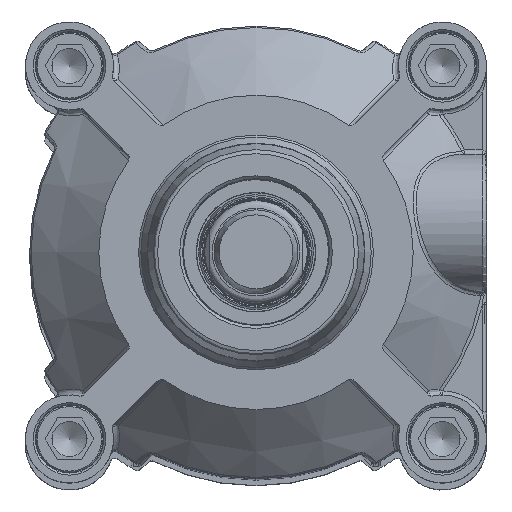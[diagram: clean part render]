
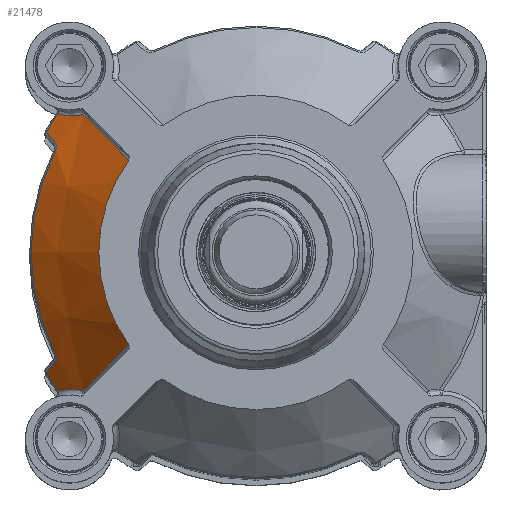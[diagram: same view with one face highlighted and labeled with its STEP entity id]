
A CAD part, top view. The second image highlights one B-rep face of the part: STEP entity #21478.
In plain terms, the highlighted conical face has half-angle 47.936 degrees and reference radius 47.75 mm.
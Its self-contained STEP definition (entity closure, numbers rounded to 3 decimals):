
#603=B_SPLINE_CURVE_WITH_KNOTS('',3,(#40989,#40990,#40991,#40992),
 .UNSPECIFIED.,.F.,.F.,(4,4),(-2.488,-0.418),
 .UNSPECIFIED.);
#607=B_SPLINE_CURVE_WITH_KNOTS('',3,(#41065,#41066,#41067,#41068,#41069),
 .UNSPECIFIED.,.F.,.F.,(4,1,4),(-8.955,-8.635,-8.209),
 .UNSPECIFIED.);
#609=B_SPLINE_CURVE_WITH_KNOTS('',3,(#41117,#41118,#41119,#41120,#41121,
#41122),.UNSPECIFIED.,.F.,.F.,(4,1,1,4),(-0.268,-0.153,
-0.077,0.),.UNSPECIFIED.);
#612=B_SPLINE_CURVE_WITH_KNOTS('',3,(#41172,#41173,#41174,#41175,#41176),
 .UNSPECIFIED.,.F.,.F.,(4,1,4),(-0.268,-0.153,0.),
 .UNSPECIFIED.);
#613=B_SPLINE_CURVE_WITH_KNOTS('',3,(#41208,#41209,#41210,#41211),
 .UNSPECIFIED.,.F.,.F.,(4,4),(-1.565,-1.186),
 .UNSPECIFIED.);
#617=B_SPLINE_CURVE_WITH_KNOTS('',3,(#41288,#41289,#41290,#41291,#41292,
#41293,#41294,#41295),.UNSPECIFIED.,.F.,.F.,(4,2,2,4),(-8.752,
-8.48,-8.178,-8.005),.UNSPECIFIED.);
#620=B_SPLINE_CURVE_WITH_KNOTS('',3,(#41324,#41325,#41326,#41327),
 .UNSPECIFIED.,.F.,.F.,(4,4),(-2.108,-0.039),
 .UNSPECIFIED.);
#621=B_SPLINE_CURVE_WITH_KNOTS('',3,(#41351,#41352,#41353,#41354),
 .UNSPECIFIED.,.F.,.F.,(4,4),(-3.15,-2.771),
 .UNSPECIFIED.);
#5345=FACE_OUTER_BOUND('',#6947,.T.);
#6947=EDGE_LOOP('',(#17258,#17259,#17260,#17261,#17262,#17263,#17264,#17265,
#17266,#17267,#17268,#17269));
#8154=CIRCLE('',#23464,37.5);
#8212=CIRCLE('',#23548,57.67);
#8218=CIRCLE('',#23555,53.67);
#8225=CIRCLE('',#23564,57.67);
#9803=VERTEX_POINT('',#40369);
#9804=VERTEX_POINT('',#40382);
#9871=VERTEX_POINT('',#40961);
#9875=VERTEX_POINT('',#41027);
#9879=VERTEX_POINT('',#41079);
#9880=VERTEX_POINT('',#41115);
#9881=VERTEX_POINT('',#41116);
#9886=VERTEX_POINT('',#41169);
#9887=VERTEX_POINT('',#41171);
#9890=VERTEX_POINT('',#41185);
#9893=VERTEX_POINT('',#41243);
#9897=VERTEX_POINT('',#41261);
#12329=EDGE_CURVE('',#9803,#9804,#8154,.T.);
#12430=EDGE_CURVE('',#9804,#9871,#603,.T.);
#12436=EDGE_CURVE('',#9871,#9875,#607,.T.);
#12441=EDGE_CURVE('',#9875,#9879,#8212,.T.);
#12443=EDGE_CURVE('',#9880,#9881,#609,.T.);
#12449=EDGE_CURVE('',#9886,#9887,#612,.T.);
#12451=EDGE_CURVE('',#9881,#9886,#8218,.T.);
#12456=EDGE_CURVE('',#9887,#9890,#613,.T.);
#12462=EDGE_CURVE('',#9890,#9893,#8225,.T.);
#12467=EDGE_CURVE('',#9893,#9897,#617,.T.);
#12470=EDGE_CURVE('',#9897,#9803,#620,.T.);
#12473=EDGE_CURVE('',#9879,#9880,#621,.T.);
#17258=ORIENTED_EDGE('',*,*,#12470,.F.);
#17259=ORIENTED_EDGE('',*,*,#12467,.F.);
#17260=ORIENTED_EDGE('',*,*,#12462,.F.);
#17261=ORIENTED_EDGE('',*,*,#12456,.F.);
#17262=ORIENTED_EDGE('',*,*,#12449,.F.);
#17263=ORIENTED_EDGE('',*,*,#12451,.F.);
#17264=ORIENTED_EDGE('',*,*,#12443,.F.);
#17265=ORIENTED_EDGE('',*,*,#12473,.F.);
#17266=ORIENTED_EDGE('',*,*,#12441,.F.);
#17267=ORIENTED_EDGE('',*,*,#12436,.F.);
#17268=ORIENTED_EDGE('',*,*,#12430,.F.);
#17269=ORIENTED_EDGE('',*,*,#12329,.F.);
#19100=CONICAL_SURFACE('',#23572,47.75,47.936);
#21478=ADVANCED_FACE('',(#5345),#19100,.T.);
#23464=AXIS2_PLACEMENT_3D('',#40383,#27825,#27826);
#23548=AXIS2_PLACEMENT_3D('',#41083,#28014,#28015);
#23555=AXIS2_PLACEMENT_3D('',#41179,#28028,#28029);
#23564=AXIS2_PLACEMENT_3D('',#41255,#28046,#28047);
#23572=AXIS2_PLACEMENT_3D('',#41360,#28064,#28065);
#27825=DIRECTION('center_axis',(0.,0.,1.));
#27826=DIRECTION('ref_axis',(1.,0.,0.));
#28014=DIRECTION('center_axis',(0.,0.,-1.));
#28015=DIRECTION('ref_axis',(-0.842,-0.54,0.));
#28028=DIRECTION('center_axis',(0.,0.,-1.));
#28029=DIRECTION('ref_axis',(-1.,0.,0.));
#28046=DIRECTION('center_axis',(0.,0.,-1.));
#28047=DIRECTION('ref_axis',(-0.842,0.54,0.));
#28064=DIRECTION('center_axis',(0.,0.,-1.));
#28065=DIRECTION('ref_axis',(0.707,-0.707,0.));
#40369=CARTESIAN_POINT('',(-30.355,22.019,48.5));
#40382=CARTESIAN_POINT('',(-30.355,-22.019,48.5));
#40383=CARTESIAN_POINT('Origin',(0.,0.,48.5));
#40961=CARTESIAN_POINT('',(-41.282,-32.903,34.702));
#40989=CARTESIAN_POINT('Ctrl Pts',(-30.355,-22.019,
48.5));
#40990=CARTESIAN_POINT('Ctrl Pts',(-34.005,-25.649,43.91));
#40991=CARTESIAN_POINT('Ctrl Pts',(-37.645,-29.276,
39.308));
#40992=CARTESIAN_POINT('Ctrl Pts',(-41.282,-32.903,
34.702));
#41027=CARTESIAN_POINT('',(-47.23,-33.093,30.298));
#41065=CARTESIAN_POINT('Ctrl Pts',(-41.282,-32.903,
34.702));
#41066=CARTESIAN_POINT('Ctrl Pts',(-42.183,-32.691,
34.185));
#41067=CARTESIAN_POINT('Ctrl Pts',(-44.275,-32.474,
32.8));
#41068=CARTESIAN_POINT('Ctrl Pts',(-46.193,-32.781,31.226));
#41069=CARTESIAN_POINT('Ctrl Pts',(-47.23,-33.093,30.298));
#41079=CARTESIAN_POINT('',(-50.032,-28.682,30.298));
#41083=CARTESIAN_POINT('Origin',(0.,0.,30.298));
#41115=CARTESIAN_POINT('',(-48.141,-26.49,32.754));
#41116=CARTESIAN_POINT('',(-47.877,-24.254,33.908));
#41117=CARTESIAN_POINT('Ctrl Pts',(-48.141,-26.49,32.754));
#41118=CARTESIAN_POINT('Ctrl Pts',(-47.95,-26.269,
33.002));
#41119=CARTESIAN_POINT('Ctrl Pts',(-47.699,-25.813,
33.398));
#41120=CARTESIAN_POINT('Ctrl Pts',(-47.619,-24.994,
33.81));
#41121=CARTESIAN_POINT('Ctrl Pts',(-47.76,-24.485,
33.908));
#41122=CARTESIAN_POINT('Ctrl Pts',(-47.877,-24.254,
33.908));
#41169=CARTESIAN_POINT('',(-47.877,24.254,33.908));
#41171=CARTESIAN_POINT('',(-48.141,26.49,32.754));
#41172=CARTESIAN_POINT('Ctrl Pts',(-47.877,24.254,33.908));
#41173=CARTESIAN_POINT('Ctrl Pts',(-47.702,24.6,33.908));
#41174=CARTESIAN_POINT('Ctrl Pts',(-47.555,25.508,33.645));
#41175=CARTESIAN_POINT('Ctrl Pts',(-47.886,26.195,33.084));
#41176=CARTESIAN_POINT('Ctrl Pts',(-48.141,26.49,32.754));
#41179=CARTESIAN_POINT('Origin',(0.,0.,33.908));
#41185=CARTESIAN_POINT('',(-50.032,28.682,30.298));
#41208=CARTESIAN_POINT('Ctrl Pts',(-48.141,26.49,32.754));
#41209=CARTESIAN_POINT('Ctrl Pts',(-48.772,27.222,31.937));
#41210=CARTESIAN_POINT('Ctrl Pts',(-49.402,27.953,31.118));
#41211=CARTESIAN_POINT('Ctrl Pts',(-50.032,28.682,30.298));
#41243=CARTESIAN_POINT('',(-47.23,33.093,30.298));
#41255=CARTESIAN_POINT('Origin',(0.,0.,30.298));
#41261=CARTESIAN_POINT('',(-41.282,32.903,34.702));
#41288=CARTESIAN_POINT('Ctrl Pts',(-47.23,33.093,30.298));
#41289=CARTESIAN_POINT('Ctrl Pts',(-46.566,32.893,30.892));
#41290=CARTESIAN_POINT('Ctrl Pts',(-45.877,32.75,31.475));
#41291=CARTESIAN_POINT('Ctrl Pts',(-44.383,32.585,32.657));
#41292=CARTESIAN_POINT('Ctrl Pts',(-43.565,32.575,33.256));
#41293=CARTESIAN_POINT('Ctrl Pts',(-42.255,32.709,34.121));
#41294=CARTESIAN_POINT('Ctrl Pts',(-41.769,32.788,34.422));
#41295=CARTESIAN_POINT('Ctrl Pts',(-41.282,32.903,34.702));
#41324=CARTESIAN_POINT('Ctrl Pts',(-41.282,32.903,34.702));
#41325=CARTESIAN_POINT('Ctrl Pts',(-37.645,29.276,39.308));
#41326=CARTESIAN_POINT('Ctrl Pts',(-34.005,25.649,43.91));
#41327=CARTESIAN_POINT('Ctrl Pts',(-30.355,22.019,48.5));
#41351=CARTESIAN_POINT('Ctrl Pts',(-50.032,-28.682,
30.298));
#41352=CARTESIAN_POINT('Ctrl Pts',(-49.402,-27.953,
31.118));
#41353=CARTESIAN_POINT('Ctrl Pts',(-48.772,-27.222,31.937));
#41354=CARTESIAN_POINT('Ctrl Pts',(-48.141,-26.49,
32.754));
#41360=CARTESIAN_POINT('Origin',(0.,0.,39.25));
